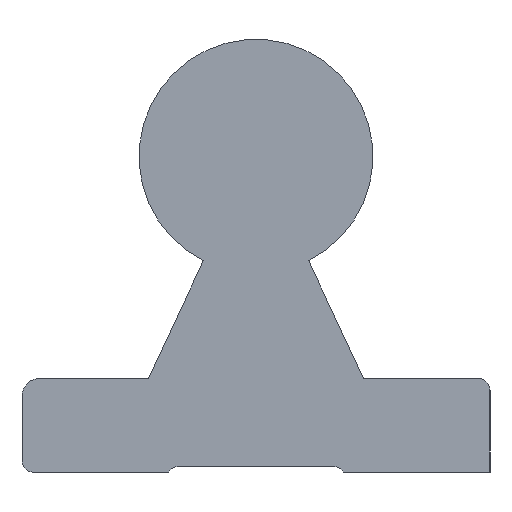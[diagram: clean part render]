
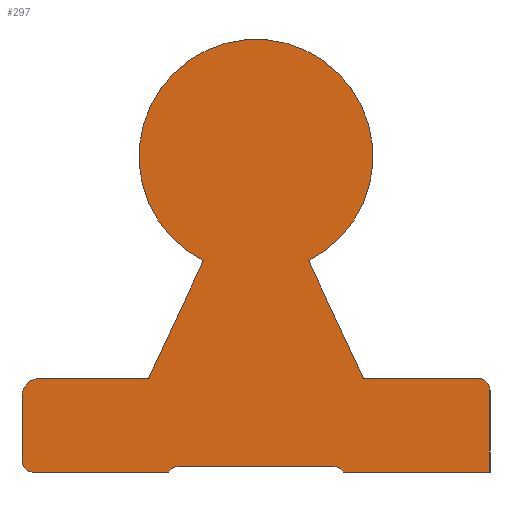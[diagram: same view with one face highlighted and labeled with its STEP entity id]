
A CAD part, left-side view. The second image highlights one B-rep face of the part: STEP entity #297.
In plain terms, the highlighted planar face has unit normal (-1, 0, 0).
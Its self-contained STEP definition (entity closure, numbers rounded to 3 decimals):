
#49=CARTESIAN_POINT('',(0.0,-6.634,0.5));
#50=VERTEX_POINT('',#49);
#51=CARTESIAN_POINT('',(0.0,-7.5,0.0));
#52=VERTEX_POINT('',#51);
#53=CARTESIAN_POINT('',(0.0,-6.634,-0.5));
#54=DIRECTION('',(-1.,0.0,0.0));
#55=DIRECTION('',(0.0,-0.866,0.5));
#56=AXIS2_PLACEMENT_3D('',#53,#54,#55);
#57=CIRCLE('',#56,1.);
#58=EDGE_CURVE('',#50,#52,#57,.F.);
#102=CARTESIAN_POINT('',(0.0,6.634,0.5));
#103=VERTEX_POINT('',#102);
#110=CARTESIAN_POINT('',(0.0,7.5,0.0));
#111=VERTEX_POINT('',#110);
#112=CARTESIAN_POINT('',(0.0,6.634,-0.5));
#113=DIRECTION('',(-1.,0.0,0.0));
#114=DIRECTION('',(0.0,0.866,0.5));
#115=AXIS2_PLACEMENT_3D('',#112,#113,#114);
#116=CIRCLE('',#115,1.);
#117=EDGE_CURVE('',#111,#103,#116,.F.);
#144=CARTESIAN_POINT('',(0.0,19.0,0.0));
#145=VERTEX_POINT('',#144);
#152=CARTESIAN_POINT('',(0.0,20.0,1.));
#153=VERTEX_POINT('',#152);
#154=CARTESIAN_POINT('',(0.0,19.0,1.0));
#155=DIRECTION('',(1.,0.0,0.0));
#156=DIRECTION('',(0.0,0.707,-0.707));
#157=AXIS2_PLACEMENT_3D('',#154,#155,#156);
#158=CIRCLE('',#157,1.);
#159=EDGE_CURVE('',#145,#153,#158,.T.);
#176=CARTESIAN_POINT('',(0.0,20.,6.5));
#177=VERTEX_POINT('',#176);
#178=CARTESIAN_POINT('',(0.0,20.0,1.));
#179=DIRECTION('',(0.0,0.0,1.0));
#180=VECTOR('',#179,5.5);
#181=LINE('',#178,#180);
#182=EDGE_CURVE('',#153,#177,#181,.T.);
#201=CARTESIAN_POINT('',(0.0,13.75,0.25));
#202=DIRECTION('',(1.0,0.0,0.0));
#203=DIRECTION('',(0.0,0.0,-1.0));
#204=AXIS2_PLACEMENT_3D('',#201,#202,#203);
#205=PLANE('',#204);
#206=ORIENTED_EDGE('',*,*,#159,.F.);
#207=CARTESIAN_POINT('',(0.0,7.5,0.0));
#208=DIRECTION('',(0.0,1.0,0.0));
#209=VECTOR('',#208,11.5);
#210=LINE('',#207,#209);
#211=EDGE_CURVE('',#111,#145,#210,.T.);
#212=ORIENTED_EDGE('',*,*,#211,.F.);
#213=ORIENTED_EDGE('',*,*,#117,.T.);
#214=CARTESIAN_POINT('',(0.0,-6.634,0.5));
#215=DIRECTION('',(0.0,1.0,0.0));
#216=VECTOR('',#215,13.268);
#217=LINE('',#214,#216);
#218=EDGE_CURVE('',#50,#103,#217,.T.);
#219=ORIENTED_EDGE('',*,*,#218,.F.);
#220=ORIENTED_EDGE('',*,*,#58,.T.);
#221=CARTESIAN_POINT('',(0.0,-20.0,0.0));
#222=VERTEX_POINT('',#221);
#223=CARTESIAN_POINT('',(0.0,-20.0,0.0));
#224=DIRECTION('',(0.0,1.0,0.0));
#225=VECTOR('',#224,12.5);
#226=LINE('',#223,#225);
#227=EDGE_CURVE('',#222,#52,#226,.T.);
#228=ORIENTED_EDGE('',*,*,#227,.F.);
#229=CARTESIAN_POINT('',(0.0,-20.,7.));
#230=VERTEX_POINT('',#229);
#231=CARTESIAN_POINT('',(0.0,-20.,7.));
#232=DIRECTION('',(0.0,0.0,-1.0));
#233=VECTOR('',#232,7.);
#234=LINE('',#231,#233);
#235=EDGE_CURVE('',#230,#222,#234,.T.);
#236=ORIENTED_EDGE('',*,*,#235,.F.);
#237=CARTESIAN_POINT('',(0.0,-19.,8.));
#238=VERTEX_POINT('',#237);
#239=CARTESIAN_POINT('',(0.0,-19.,7.));
#240=DIRECTION('',(1.,0.0,0.0));
#241=DIRECTION('',(0.0,-0.707,0.707));
#242=AXIS2_PLACEMENT_3D('',#239,#240,#241);
#243=CIRCLE('',#242,1.);
#244=EDGE_CURVE('',#238,#230,#243,.T.);
#245=ORIENTED_EDGE('',*,*,#244,.F.);
#246=CARTESIAN_POINT('',(0.0,-9.196,8.));
#247=VERTEX_POINT('',#246);
#248=CARTESIAN_POINT('',(0.0,-9.196,8.));
#249=DIRECTION('',(0.0,-1.0,0.0));
#250=VECTOR('',#249,9.804);
#251=LINE('',#248,#250);
#252=EDGE_CURVE('',#247,#238,#251,.T.);
#253=ORIENTED_EDGE('',*,*,#252,.F.);
#254=CARTESIAN_POINT('',(0.0,-4.5,18.07));
#255=VERTEX_POINT('',#254);
#256=CARTESIAN_POINT('',(0.0,-4.5,18.07));
#257=DIRECTION('',(0.0,-0.423,-0.906));
#258=VECTOR('',#257,11.111);
#259=LINE('',#256,#258);
#260=EDGE_CURVE('',#255,#247,#259,.T.);
#261=ORIENTED_EDGE('',*,*,#260,.F.);
#262=CARTESIAN_POINT('',(0.0,4.5,18.07));
#263=VERTEX_POINT('',#262);
#264=CARTESIAN_POINT('',(0.0,0.,27.0));
#265=DIRECTION('',(1.0,0.0,0.0));
#266=DIRECTION('',(0.0,1.0,0.0));
#267=AXIS2_PLACEMENT_3D('',#264,#265,#266);
#268=CIRCLE('',#267,10.0);
#269=EDGE_CURVE('',#263,#255,#268,.T.);
#270=ORIENTED_EDGE('',*,*,#269,.F.);
#271=CARTESIAN_POINT('',(0.0,9.196,8.));
#272=VERTEX_POINT('',#271);
#273=CARTESIAN_POINT('',(0.0,9.196,8.));
#274=DIRECTION('',(0.0,-0.423,0.906));
#275=VECTOR('',#274,11.111);
#276=LINE('',#273,#275);
#277=EDGE_CURVE('',#272,#263,#276,.T.);
#278=ORIENTED_EDGE('',*,*,#277,.F.);
#279=CARTESIAN_POINT('',(0.0,18.5,8.));
#280=VERTEX_POINT('',#279);
#281=CARTESIAN_POINT('',(0.0,18.5,8.));
#282=DIRECTION('',(0.0,-1.0,0.0));
#283=VECTOR('',#282,9.304);
#284=LINE('',#281,#283);
#285=EDGE_CURVE('',#280,#272,#284,.T.);
#286=ORIENTED_EDGE('',*,*,#285,.F.);
#287=CARTESIAN_POINT('',(0.0,18.5,6.5));
#288=DIRECTION('',(1.0,0.0,0.0));
#289=DIRECTION('',(0.0,0.707,0.707));
#290=AXIS2_PLACEMENT_3D('',#287,#288,#289);
#291=CIRCLE('',#290,1.5);
#292=EDGE_CURVE('',#177,#280,#291,.T.);
#293=ORIENTED_EDGE('',*,*,#292,.F.);
#294=ORIENTED_EDGE('',*,*,#182,.F.);
#295=EDGE_LOOP('',(#206,#212,#213,#219,#220,#228,#236,#245,#253,#261,#270,#278,#286,#293,#294));
#296=FACE_OUTER_BOUND('',#295,.T.);
#297=ADVANCED_FACE('',(#296),#205,.F.);
